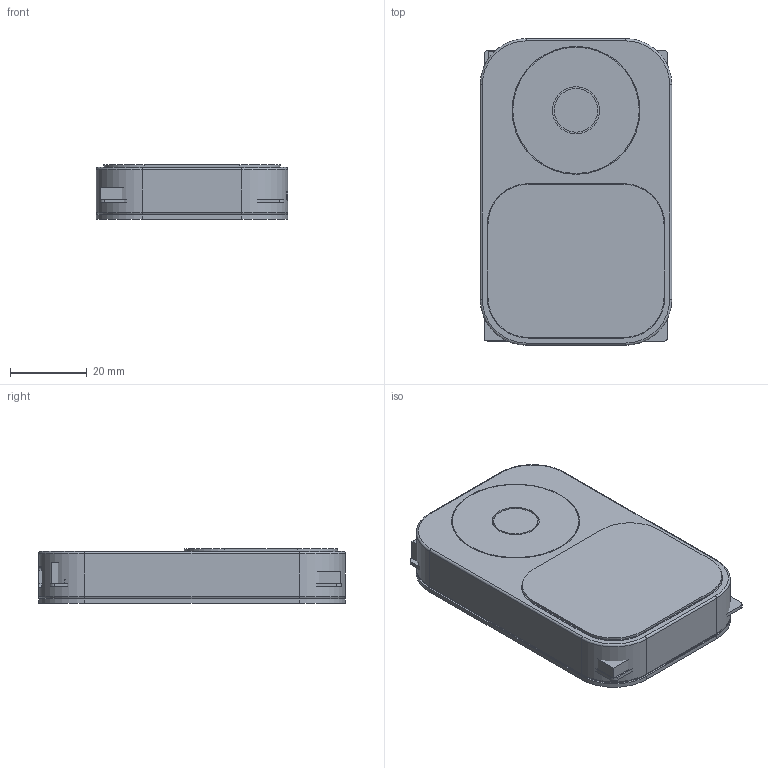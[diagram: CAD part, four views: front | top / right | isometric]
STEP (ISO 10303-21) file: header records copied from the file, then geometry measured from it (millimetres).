
FILE_DESCRIPTION(('FreeCAD Model'),'2;1');
FILE_NAME('Open CASCADE Shape Model','2026-09-21T09:51:54',('FreeCAD'),( 'FreeCAD'),'Open CASCADE STEP processor 7.8','FreeCAD','Unknown');
FILE_SCHEMA(('AUTOMOTIVE_DESIGN { 1 0 10303 214 1 1 1 1 }'));
Length unit declared in the file: millimetre
Products named in the file (1): Open CASCADE STEP translator 7.8 6
Bounding box: 50 x 80 x 14.2 mm (x, y, z)
Volume: 24909.7 mm3; surface area: 46243.4 mm2
Topology: 151 solids, 151 shells, 1255 faces, 2788 edges, 1856 vertices
Faces by surface type: plane 1125, cylinder 122, torus 8
Full cylindrical faces by diameter (mm): 1 x2, 1.1 x3, 1.3 x6, 1.7 x4, 1.8 x6, 2.2 x4, 2.4 x1, 3.3 x2, 4 x4, 6.4 x1, 7.2 x1, 10.6 x1, 11.4 x1, 12.3 x1, 13.8 x1, 31.6 x1, 33 x1, 33.4 x1, 34.4 x1
Entity records: 34149 total; most frequent: CARTESIAN_POINT 6067, ORIENTED_EDGE 5576, DIRECTION 5545, EDGE_CURVE 2788, LINE 2513, VECTOR 2513, VERTEX_POINT 1856, AXIS2_PLACEMENT_3D 1516
